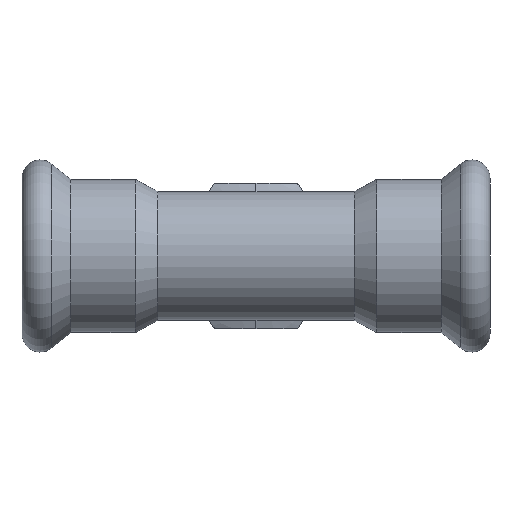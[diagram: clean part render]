
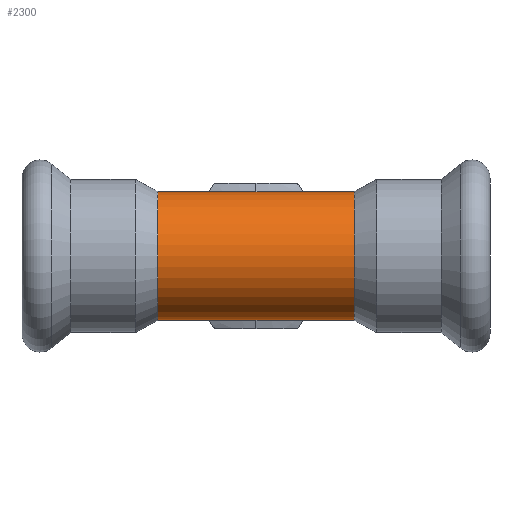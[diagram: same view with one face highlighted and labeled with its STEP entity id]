
A CAD part, front view. The second image highlights one B-rep face of the part: STEP entity #2300.
In plain terms, the highlighted cylindrical face has radius 10.6 mm (diameter 21.2 mm), a partial arc.
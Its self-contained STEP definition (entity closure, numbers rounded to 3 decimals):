
#182 = CARTESIAN_POINT ( 'NONE',  ( 16.126, 0., 10.6 ) ) ;
#203 = EDGE_LOOP ( 'NONE', ( #4116, #1730, #236, #3234 ) ) ;
#236 = ORIENTED_EDGE ( 'NONE', *, *, #6463, .T. ) ;
#553 = DIRECTION ( 'NONE',  ( 0., 0., 1. ) ) ;
#608 = CARTESIAN_POINT ( 'NONE',  ( 16.126, 0., 0. ) ) ;
#1131 = AXIS2_PLACEMENT_3D ( 'NONE', #608, #2667, #3781 ) ;
#1169 = CARTESIAN_POINT ( 'NONE',  ( 0., 0., 0. ) ) ;
#1355 = CARTESIAN_POINT ( 'NONE',  ( 0., 0., 10.6 ) ) ;
#1599 = CARTESIAN_POINT ( 'NONE',  ( 0., 0., -10.6 ) ) ;
#1685 = FACE_OUTER_BOUND ( 'NONE', #203, .T. ) ;
#1730 = ORIENTED_EDGE ( 'NONE', *, *, #5757, .T. ) ;
#2300 = ADVANCED_FACE ( 'NONE', ( #1685 ), #4918, .T. ) ;
#2446 = CIRCLE ( 'NONE', #2671, 10.6 ) ;
#2546 = DIRECTION ( 'NONE',  ( -1., 0., 0. ) ) ;
#2667 = DIRECTION ( 'NONE',  ( -1., 0., 0. ) ) ;
#2671 = AXIS2_PLACEMENT_3D ( 'NONE', #5288, #2546, #553 ) ;
#3009 = CARTESIAN_POINT ( 'NONE',  ( 16.126, 0., -10.6 ) ) ;
#3234 = ORIENTED_EDGE ( 'NONE', *, *, #6563, .F. ) ;
#3563 = CIRCLE ( 'NONE', #1131, 10.6 ) ;
#3707 = DIRECTION ( 'NONE',  ( -1., 0., 0. ) ) ;
#3781 = DIRECTION ( 'NONE',  ( 0., 0., 1. ) ) ;
#3786 = VECTOR ( 'NONE', #3707, 1000. ) ;
#4102 = LINE ( 'NONE', #1355, #4555 ) ;
#4116 = ORIENTED_EDGE ( 'NONE', *, *, #5951, .F. ) ;
#4195 = DIRECTION ( 'NONE',  ( 0., 0., 1. ) ) ;
#4298 = VERTEX_POINT ( 'NONE', #182 ) ;
#4334 = VERTEX_POINT ( 'NONE', #5499 ) ;
#4555 = VECTOR ( 'NONE', #6749, 1000. ) ;
#4647 = VERTEX_POINT ( 'NONE', #5552 ) ;
#4830 = LINE ( 'NONE', #1599, #3786 ) ;
#4918 = CYLINDRICAL_SURFACE ( 'NONE', #5892, 10.6 ) ;
#5288 = CARTESIAN_POINT ( 'NONE',  ( -16.126, 0., 0. ) ) ;
#5387 = DIRECTION ( 'NONE',  ( -1., 0., 0. ) ) ;
#5499 = CARTESIAN_POINT ( 'NONE',  ( -16.126, 0., -10.6 ) ) ;
#5552 = CARTESIAN_POINT ( 'NONE',  ( -16.126, 0., 10.6 ) ) ;
#5757 = EDGE_CURVE ( 'NONE', #6453, #4298, #3563, .T. ) ;
#5892 = AXIS2_PLACEMENT_3D ( 'NONE', #1169, #5387, #4195 ) ;
#5951 = EDGE_CURVE ( 'NONE', #6453, #4334, #4830, .T. ) ;
#6453 = VERTEX_POINT ( 'NONE', #3009 ) ;
#6463 = EDGE_CURVE ( 'NONE', #4298, #4647, #4102, .T. ) ;
#6563 = EDGE_CURVE ( 'NONE', #4334, #4647, #2446, .T. ) ;
#6749 = DIRECTION ( 'NONE',  ( -1., 0., 0. ) ) ;
